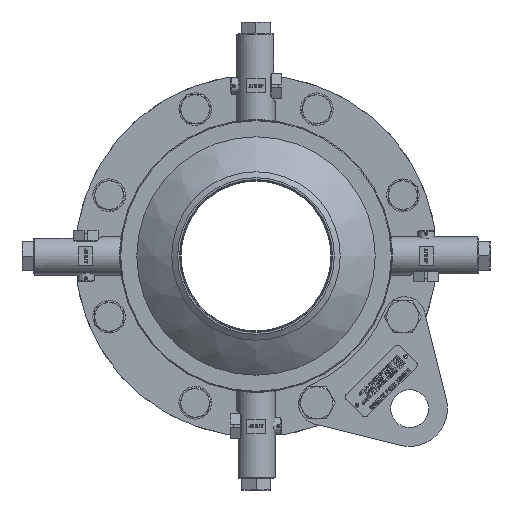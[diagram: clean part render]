
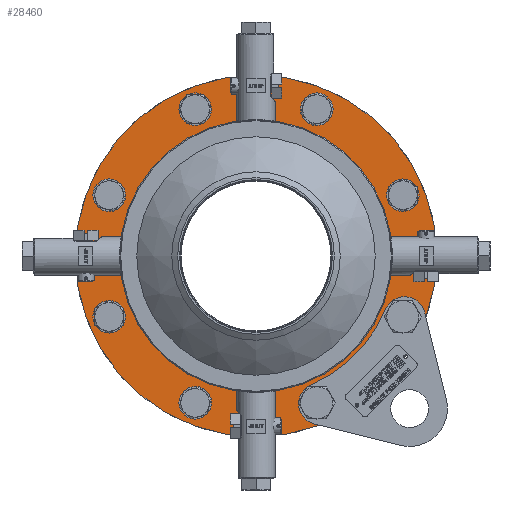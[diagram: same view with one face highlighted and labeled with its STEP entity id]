
A CAD part, left-side view. The second image highlights one B-rep face of the part: STEP entity #28460.
In plain terms, the highlighted planar face has unit normal (-1, 0, 0).
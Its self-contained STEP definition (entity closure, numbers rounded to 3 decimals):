
#8595=PLANE('',#30136);
#9626=FACE_BOUND('',#11545,.T.);
#9627=FACE_BOUND('',#11546,.T.);
#9628=FACE_BOUND('',#11547,.T.);
#9629=FACE_BOUND('',#11548,.T.);
#9630=FACE_BOUND('',#11549,.T.);
#9631=FACE_BOUND('',#11550,.T.);
#9632=FACE_BOUND('',#11551,.T.);
#9633=FACE_BOUND('',#11552,.T.);
#9634=FACE_BOUND('',#11553,.T.);
#9635=FACE_BOUND('',#11554,.T.);
#11545=EDGE_LOOP('',(#20424));
#11546=EDGE_LOOP('',(#20425));
#11547=EDGE_LOOP('',(#20426));
#11548=EDGE_LOOP('',(#20427));
#11549=EDGE_LOOP('',(#20428));
#11550=EDGE_LOOP('',(#20429));
#11551=EDGE_LOOP('',(#20430));
#11552=EDGE_LOOP('',(#20431));
#11553=EDGE_LOOP('',(#20432));
#11554=EDGE_LOOP('',(#20433));
#13324=CIRCLE('',#30079,0.354);
#13326=CIRCLE('',#30082,0.354);
#13328=CIRCLE('',#30085,0.354);
#13330=CIRCLE('',#30088,0.354);
#13332=CIRCLE('',#30091,0.354);
#13334=CIRCLE('',#30094,0.354);
#13336=CIRCLE('',#30097,0.354);
#13338=CIRCLE('',#30101,0.354);
#13358=CIRCLE('',#30135,4.5);
#13359=CIRCLE('',#30137,5.969);
#13546=VERTEX_POINT('',#37505);
#13548=VERTEX_POINT('',#37510);
#13550=VERTEX_POINT('',#37515);
#13552=VERTEX_POINT('',#37520);
#13554=VERTEX_POINT('',#37525);
#13556=VERTEX_POINT('',#37530);
#13558=VERTEX_POINT('',#37535);
#13563=VERTEX_POINT('',#37679);
#13583=VERTEX_POINT('',#37813);
#13584=VERTEX_POINT('',#37816);
#16275=EDGE_CURVE('',#13546,#13546,#13324,.T.);
#16277=EDGE_CURVE('',#13548,#13548,#13326,.T.);
#16279=EDGE_CURVE('',#13550,#13550,#13328,.T.);
#16281=EDGE_CURVE('',#13552,#13552,#13330,.T.);
#16283=EDGE_CURVE('',#13554,#13554,#13332,.T.);
#16285=EDGE_CURVE('',#13556,#13556,#13334,.T.);
#16287=EDGE_CURVE('',#13558,#13558,#13336,.T.);
#16292=EDGE_CURVE('',#13563,#13563,#13338,.T.);
#16314=EDGE_CURVE('',#13583,#13583,#13358,.T.);
#16315=EDGE_CURVE('',#13584,#13584,#13359,.T.);
#20424=ORIENTED_EDGE('',*,*,#16275,.T.);
#20425=ORIENTED_EDGE('',*,*,#16277,.T.);
#20426=ORIENTED_EDGE('',*,*,#16279,.T.);
#20427=ORIENTED_EDGE('',*,*,#16281,.T.);
#20428=ORIENTED_EDGE('',*,*,#16283,.T.);
#20429=ORIENTED_EDGE('',*,*,#16285,.T.);
#20430=ORIENTED_EDGE('',*,*,#16287,.T.);
#20431=ORIENTED_EDGE('',*,*,#16292,.T.);
#20432=ORIENTED_EDGE('',*,*,#16315,.F.);
#20433=ORIENTED_EDGE('',*,*,#16314,.T.);
#28460=ADVANCED_FACE('',(#9626,#9627,#9628,#9629,#9630,#9631,#9632,#9633,
#9634,#9635),#8595,.T.);
#30079=AXIS2_PLACEMENT_3D('',#37506,#31530,#31531);
#30082=AXIS2_PLACEMENT_3D('',#37511,#31536,#31537);
#30085=AXIS2_PLACEMENT_3D('',#37516,#31542,#31543);
#30088=AXIS2_PLACEMENT_3D('',#37521,#31548,#31549);
#30091=AXIS2_PLACEMENT_3D('',#37526,#31554,#31555);
#30094=AXIS2_PLACEMENT_3D('',#37531,#31560,#31561);
#30097=AXIS2_PLACEMENT_3D('',#37536,#31566,#31567);
#30101=AXIS2_PLACEMENT_3D('',#37680,#31574,#31575);
#30135=AXIS2_PLACEMENT_3D('',#37814,#31642,#31643);
#30136=AXIS2_PLACEMENT_3D('',#37815,#31644,#31645);
#30137=AXIS2_PLACEMENT_3D('',#37817,#31646,#31647);
#31530=DIRECTION('center_axis',(1.,0.,0.));
#31531=DIRECTION('ref_axis',(0.,-0.707,-0.707));
#31536=DIRECTION('center_axis',(1.,0.,0.));
#31537=DIRECTION('ref_axis',(0.,-1.,0.));
#31542=DIRECTION('center_axis',(1.,0.,0.));
#31543=DIRECTION('ref_axis',(0.,-0.707,0.707));
#31548=DIRECTION('center_axis',(1.,0.,0.));
#31549=DIRECTION('ref_axis',(0.,0.,
1.));
#31554=DIRECTION('center_axis',(1.,0.,0.));
#31555=DIRECTION('ref_axis',(0.,0.707,0.707));
#31560=DIRECTION('center_axis',(1.,0.,0.));
#31561=DIRECTION('ref_axis',(0.,1.,0.));
#31566=DIRECTION('center_axis',(1.,0.,0.));
#31567=DIRECTION('ref_axis',(0.,0.707,-0.707));
#31574=DIRECTION('center_axis',(1.,0.,0.));
#31575=DIRECTION('ref_axis',(0.,0.,-1.));
#31642=DIRECTION('center_axis',(1.,0.,0.));
#31643=DIRECTION('ref_axis',(0.,1.,0.));
#31644=DIRECTION('center_axis',(-1.,0.,0.));
#31645=DIRECTION('ref_axis',(0.,0.,1.));
#31646=DIRECTION('center_axis',(1.,0.,0.));
#31647=DIRECTION('ref_axis',(0.,1.,0.));
#37505=CARTESIAN_POINT('',(-0.787,2.26,-4.6));
#37506=CARTESIAN_POINT('Origin',(-0.787,2.009,-4.85));
#37510=CARTESIAN_POINT('',(-0.787,-1.655,-4.85));
#37511=CARTESIAN_POINT('Origin',(-0.787,-2.009,-4.85));
#37515=CARTESIAN_POINT('',(-0.787,-4.6,-2.26));
#37516=CARTESIAN_POINT('Origin',(-0.787,-4.85,-2.009));
#37520=CARTESIAN_POINT('',(-0.787,-4.85,1.655));
#37521=CARTESIAN_POINT('Origin',(-0.787,-4.85,2.009));
#37525=CARTESIAN_POINT('',(-0.787,-2.26,4.6));
#37526=CARTESIAN_POINT('Origin',(-0.787,-2.009,4.85));
#37530=CARTESIAN_POINT('',(-0.787,1.655,4.85));
#37531=CARTESIAN_POINT('Origin',(-0.787,2.009,4.85));
#37535=CARTESIAN_POINT('',(-0.787,4.6,2.26));
#37536=CARTESIAN_POINT('Origin',(-0.787,4.85,2.009));
#37679=CARTESIAN_POINT('',(-0.787,4.85,-1.655));
#37680=CARTESIAN_POINT('Origin',(-0.787,4.85,-2.009));
#37813=CARTESIAN_POINT('',(-0.787,4.5,0.));
#37814=CARTESIAN_POINT('Origin',(-0.787,0.,
0.));
#37815=CARTESIAN_POINT('Origin',(-0.787,5.234,0.));
#37816=CARTESIAN_POINT('',(-0.787,5.969,0.));
#37817=CARTESIAN_POINT('Origin',(-0.787,0.,
0.));
